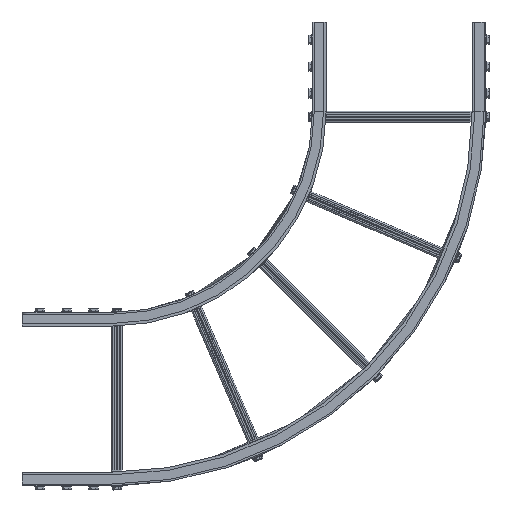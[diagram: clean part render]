
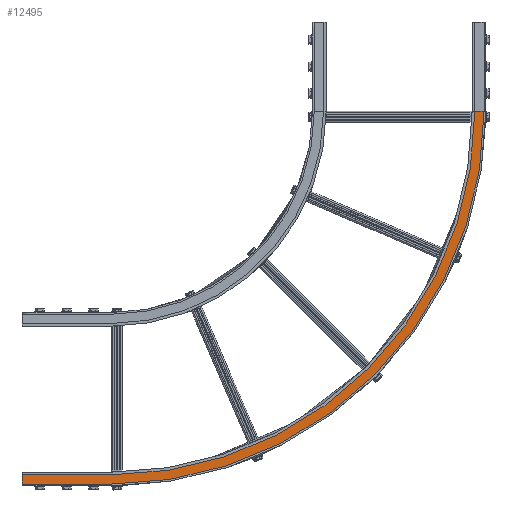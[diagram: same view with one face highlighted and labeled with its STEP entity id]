
A CAD part, front view. The second image highlights one B-rep face of the part: STEP entity #12495.
In plain terms, the highlighted planar face has unit normal (0, -1, 0) as drawn and (0, 1, 0) by its records, which use the part's own axes.
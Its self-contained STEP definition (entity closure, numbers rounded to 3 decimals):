
#73 = AXIS2_PLACEMENT_3D ( 'NONE', #5527, #11690, #3027 ) ;
#564 = CARTESIAN_POINT ( 'NONE',  ( -10.5, 20., 0. ) ) ;
#694 = VERTEX_POINT ( 'NONE', #1483 ) ;
#734 = EDGE_CURVE ( 'NONE', #16657, #15122, #12600, .T. ) ;
#969 = CARTESIAN_POINT ( 'NONE',  ( -620.5, 20., -625.5 ) ) ;
#1483 = CARTESIAN_POINT ( 'NONE',  ( 5., 20., 150. ) ) ;
#2027 = CARTESIAN_POINT ( 'NONE',  ( 5., 20., 0. ) ) ;
#2094 = DIRECTION ( 'NONE',  ( 0., 0., 1. ) ) ;
#2631 = ORIENTED_EDGE ( 'NONE', *, *, #12442, .T. ) ;
#3014 = PLANE ( 'NONE',  #16866 ) ;
#3027 = DIRECTION ( 'NONE',  ( 1., 0., 0. ) ) ;
#3595 = EDGE_CURVE ( 'NONE', #17092, #16657, #13275, .T. ) ;
#4240 = DIRECTION ( 'NONE',  ( -1., 0., 0. ) ) ;
#4602 = CARTESIAN_POINT ( 'NONE',  ( 5., 20., 0. ) ) ;
#5527 = CARTESIAN_POINT ( 'NONE',  ( -620.5, 20., 0. ) ) ;
#5711 = CARTESIAN_POINT ( 'NONE',  ( 5., 20., 0. ) ) ;
#5883 = VERTEX_POINT ( 'NONE', #8918 ) ;
#6148 = EDGE_CURVE ( 'NONE', #17092, #694, #17362, .T. ) ;
#6746 = CARTESIAN_POINT ( 'NONE',  ( -620.5, 20., -625.5 ) ) ;
#8692 = ORIENTED_EDGE ( 'NONE', *, *, #734, .T. ) ;
#8794 = DIRECTION ( 'NONE',  ( 0., 1., 0. ) ) ;
#8918 = CARTESIAN_POINT ( 'NONE',  ( -10.5, 20., 150. ) ) ;
#9128 = VERTEX_POINT ( 'NONE', #564 ) ;
#9289 = DIRECTION ( 'NONE',  ( 0., 0., -1. ) ) ;
#9880 = VECTOR ( 'NONE', #4240, 1000. ) ;
#10183 = LINE ( 'NONE', #19936, #13802 ) ;
#10683 = CIRCLE ( 'NONE', #16599, 610. ) ;
#10723 = DIRECTION ( 'NONE',  ( 0., 0., 1. ) ) ;
#11091 = ORIENTED_EDGE ( 'NONE', *, *, #11594, .F. ) ;
#11594 = EDGE_CURVE ( 'NONE', #9128, #15122, #10683, .T. ) ;
#11690 = DIRECTION ( 'NONE',  ( 0., 1., 0. ) ) ;
#12442 = EDGE_CURVE ( 'NONE', #9128, #5883, #10183, .T. ) ;
#12495 = ADVANCED_FACE ( 'NONE', ( #17429 ), #3014, .F. ) ;
#12600 = LINE ( 'NONE', #6746, #16243 ) ;
#13263 = VECTOR ( 'NONE', #2094, 1000. ) ;
#13275 = CIRCLE ( 'NONE', #73, 625.5 ) ;
#13802 = VECTOR ( 'NONE', #10723, 1000. ) ;
#13986 = LINE ( 'NONE', #15085, #9880 ) ;
#15011 = ORIENTED_EDGE ( 'NONE', *, *, #6148, .F. ) ;
#15085 = CARTESIAN_POINT ( 'NONE',  ( 5., 20., 150. ) ) ;
#15122 = VERTEX_POINT ( 'NONE', #16581 ) ;
#15146 = EDGE_CURVE ( 'NONE', #694, #5883, #13986, .T. ) ;
#15945 = ORIENTED_EDGE ( 'NONE', *, *, #3595, .T. ) ;
#16243 = VECTOR ( 'NONE', #16549, 1000. ) ;
#16549 = DIRECTION ( 'NONE',  ( 0., 0., 1. ) ) ;
#16581 = CARTESIAN_POINT ( 'NONE',  ( -620.5, 20., -610. ) ) ;
#16599 = AXIS2_PLACEMENT_3D ( 'NONE', #18048, #8794, #19587 ) ;
#16657 = VERTEX_POINT ( 'NONE', #969 ) ;
#16866 = AXIS2_PLACEMENT_3D ( 'NONE', #4602, #18538, #9289 ) ;
#17092 = VERTEX_POINT ( 'NONE', #5711 ) ;
#17362 = LINE ( 'NONE', #2027, #13263 ) ;
#17429 = FACE_OUTER_BOUND ( 'NONE', #18545, .T. ) ;
#18048 = CARTESIAN_POINT ( 'NONE',  ( -620.5, 20., 0. ) ) ;
#18538 = DIRECTION ( 'NONE',  ( 0., -1., 0. ) ) ;
#18545 = EDGE_LOOP ( 'NONE', ( #11091, #2631, #19115, #15011, #15945, #8692 ) ) ;
#19115 = ORIENTED_EDGE ( 'NONE', *, *, #15146, .F. ) ;
#19587 = DIRECTION ( 'NONE',  ( 1., 0., 0. ) ) ;
#19936 = CARTESIAN_POINT ( 'NONE',  ( -10.5, 20., 0. ) ) ;
